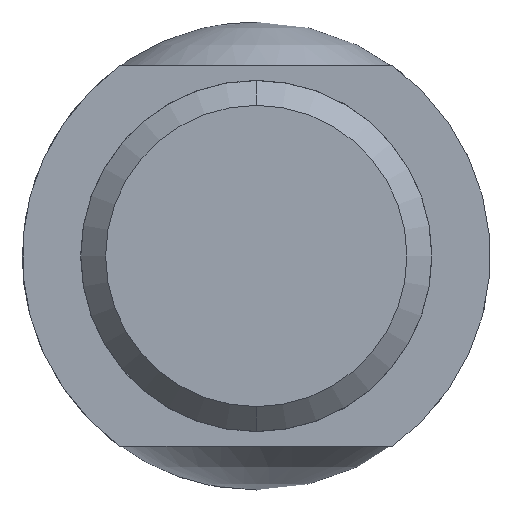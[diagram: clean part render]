
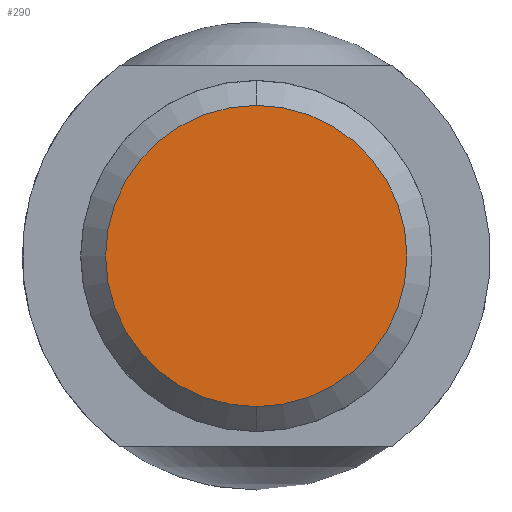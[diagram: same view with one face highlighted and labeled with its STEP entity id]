
A CAD part, front view. The second image highlights one B-rep face of the part: STEP entity #290.
In plain terms, the highlighted planar face has unit normal (0, -1, 0).
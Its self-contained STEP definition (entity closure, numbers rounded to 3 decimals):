
#112 = EDGE_CURVE ( 'NONE', #113, #114, #395, .T. ) ;
#113 = VERTEX_POINT ( 'NONE', #390 ) ;
#114 = VERTEX_POINT ( 'NONE', #389 ) ;
#290 = ADVANCED_FACE ( 'NONE', ( #549 ), #548, .F. ) ;
#291 = EDGE_LOOP ( 'NONE', ( #292, #294 ) ) ;
#292 = ORIENTED_EDGE ( 'NONE', *, *, #293, .T. ) ;
#293 = EDGE_CURVE ( 'NONE', #114, #113, #546, .T. ) ;
#294 = ORIENTED_EDGE ( 'NONE', *, *, #112, .T. ) ;
#389 = CARTESIAN_POINT ( 'NONE',  ( 0., -20., 5.15 ) ) ;
#390 = CARTESIAN_POINT ( 'NONE',  ( 0., -20., -5.15 ) ) ;
#391 = DIRECTION ( 'NONE',  ( 0., 0., 1. ) ) ;
#392 = DIRECTION ( 'NONE',  ( 0., -1., 0. ) ) ;
#393 = CARTESIAN_POINT ( 'NONE',  ( 0., -20., 0. ) ) ;
#394 = AXIS2_PLACEMENT_3D ( 'NONE', #393, #392, #391 ) ;
#395 = CIRCLE ( 'NONE', #394, 5.15 ) ;
#539 = DIRECTION ( 'NONE',  ( 0., 0., 1. ) ) ;
#540 = DIRECTION ( 'NONE',  ( 0., -1., 0. ) ) ;
#541 = CARTESIAN_POINT ( 'NONE',  ( 0., -20., 0. ) ) ;
#542 = AXIS2_PLACEMENT_3D ( 'NONE', #541, #540, #539 ) ;
#543 = DIRECTION ( 'NONE',  ( 0., 0., 1. ) ) ;
#544 = DIRECTION ( 'NONE',  ( 0., 1., 0. ) ) ;
#545 = CARTESIAN_POINT ( 'NONE',  ( 0., -20., 0. ) ) ;
#546 = CIRCLE ( 'NONE', #542, 5.15 ) ;
#547 = AXIS2_PLACEMENT_3D ( 'NONE', #545, #544, #543 ) ;
#548 = PLANE ( 'NONE',  #547 ) ;
#549 = FACE_OUTER_BOUND ( 'NONE', #291, .T. ) ;
